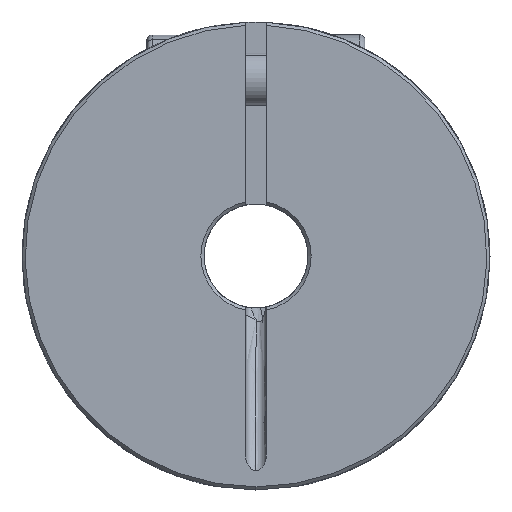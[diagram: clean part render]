
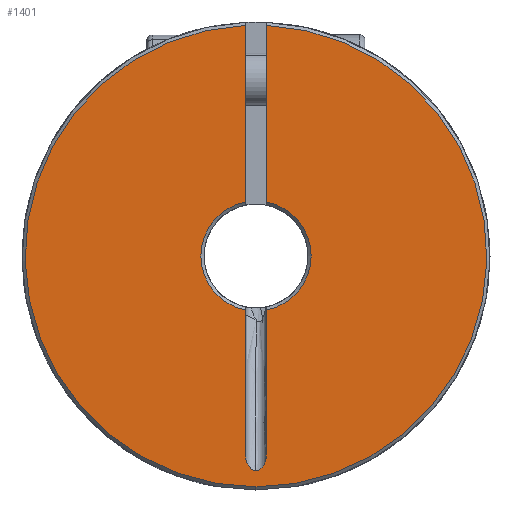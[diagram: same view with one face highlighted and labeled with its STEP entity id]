
A CAD part, left-side view. The second image highlights one B-rep face of the part: STEP entity #1401.
In plain terms, the highlighted planar face has unit normal (-1, 0, 0).
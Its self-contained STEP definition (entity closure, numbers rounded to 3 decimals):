
#21 = EDGE_CURVE ( 'NONE', #867, #5002, #2387, .T. ) ;
#142 = CARTESIAN_POINT ( 'NONE',  ( 0., -1., -19.125 ) ) ;
#321 = CARTESIAN_POINT ( 'NONE',  ( 0., 1., 5.205 ) ) ;
#369 = ORIENTED_EDGE ( 'NONE', *, *, #21, .T. ) ;
#544 = EDGE_CURVE ( 'NONE', #1414, #1650, #2566, .T. ) ;
#644 = FACE_OUTER_BOUND ( 'NONE', #1376, .T. ) ;
#645 = PLANE ( 'NONE',  #646 ) ;
#646 = AXIS2_PLACEMENT_3D ( 'NONE', #647, #648, #649 ) ;
#647 = CARTESIAN_POINT ( 'NONE',  ( 0., 5., 0. ) ) ;
#648 = DIRECTION ( 'NONE',  ( 1., 0., 0. ) ) ;
#649 = DIRECTION ( 'NONE',  ( 0., 0., -1. ) ) ;
#701 = CARTESIAN_POINT ( 'NONE',  ( 0., -1., 5.205 ) ) ;
#867 = VERTEX_POINT ( 'NONE', #2712 ) ;
#901 = ORIENTED_EDGE ( 'NONE', *, *, #544, .T. ) ;
#1043 = EDGE_CURVE ( 'NONE', #1115, #867, #2791, .T. ) ;
#1075 = ORIENTED_EDGE ( 'NONE', *, *, #2815, .F. ) ;
#1077 = ORIENTED_EDGE ( 'NONE', *, *, #1043, .T. ) ;
#1113 = ORIENTED_EDGE ( 'NONE', *, *, #1578, .T. ) ;
#1115 = VERTEX_POINT ( 'NONE', #3726 ) ;
#1136 = EDGE_CURVE ( 'NONE', #1216, #1115, #3943, .T. ) ;
#1162 = EDGE_CURVE ( 'NONE', #3938, #2367, #4140, .T. ) ;
#1174 = ORIENTED_EDGE ( 'NONE', *, *, #1136, .T. ) ;
#1191 = ORIENTED_EDGE ( 'NONE', *, *, #1162, .T. ) ;
#1216 = VERTEX_POINT ( 'NONE', #4595 ) ;
#1243 = EDGE_CURVE ( 'NONE', #4755, #1216, #4771, .T. ) ;
#1272 = ORIENTED_EDGE ( 'NONE', *, *, #1243, .T. ) ;
#1315 = ORIENTED_EDGE ( 'NONE', *, *, #1667, .F. ) ;
#1376 = EDGE_LOOP ( 'NONE', ( #1315, #1272, #1174, #1077, #369, #4507, #1191, #1113, #1075, #901 ) ) ;
#1401 = ADVANCED_FACE ( 'NONE', ( #644 ), #645, .F. ) ;
#1414 = VERTEX_POINT ( 'NONE', #701 ) ;
#1578 = EDGE_CURVE ( 'NONE', #2367, #2347, #4193, .T. ) ;
#1650 = VERTEX_POINT ( 'NONE', #4794 ) ;
#1667 = EDGE_CURVE ( 'NONE', #4755, #1650, #4903, .T. ) ;
#2347 = VERTEX_POINT ( 'NONE', #2954 ) ;
#2367 = VERTEX_POINT ( 'NONE', #3144 ) ;
#2387 = CIRCLE ( 'NONE', #2388, 5.3 ) ;
#2388 = AXIS2_PLACEMENT_3D ( 'NONE', #2389, #2390, #2391 ) ;
#2389 = CARTESIAN_POINT ( 'NONE',  ( 0., 0., 0. ) ) ;
#2390 = DIRECTION ( 'NONE',  ( 1., 0., 0. ) ) ;
#2391 = DIRECTION ( 'NONE',  ( 0., 0., -1. ) ) ;
#2566 = CIRCLE ( 'NONE', #2567, 5.3 ) ;
#2567 = AXIS2_PLACEMENT_3D ( 'NONE', #2568, #2569, #2570 ) ;
#2568 = CARTESIAN_POINT ( 'NONE',  ( 0., 0., 0. ) ) ;
#2569 = DIRECTION ( 'NONE',  ( 1., 0., 0. ) ) ;
#2570 = DIRECTION ( 'NONE',  ( 0., 0., -1. ) ) ;
#2712 = CARTESIAN_POINT ( 'NONE',  ( 0., 1., -5.205 ) ) ;
#2791 = LINE ( 'NONE', #2792, #2793 ) ;
#2792 = CARTESIAN_POINT ( 'NONE',  ( 0., 1., 0. ) ) ;
#2793 = VECTOR ( 'NONE', #2794, 1000. ) ;
#2794 = DIRECTION ( 'NONE',  ( 0., 0., 1. ) ) ;
#2815 = EDGE_CURVE ( 'NONE', #1414, #2347, #3954, .T. ) ;
#2954 = CARTESIAN_POINT ( 'NONE',  ( 0., -1., 22.177 ) ) ;
#3144 = CARTESIAN_POINT ( 'NONE',  ( 0., 0., -22.2 ) ) ;
#3726 = CARTESIAN_POINT ( 'NONE',  ( 0., 1., -19.125 ) ) ;
#3938 = VERTEX_POINT ( 'NONE', #4793 ) ;
#3943 = B_SPLINE_CURVE_WITH_KNOTS ( 'NONE', 3,
 ( #3944, #3945, #3946, #3947, #3948, #3949, #3950, #3951, #3952, #3953 ),
 .UNSPECIFIED., .F., .F.,
 ( 4, 2, 2, 2, 4 ),
 ( 0., 0., 0.001, 0.001, 0.002 ),
 .UNSPECIFIED. ) ;
#3944 = CARTESIAN_POINT ( 'NONE',  ( 0., 0., -20.63 ) ) ;
#3945 = CARTESIAN_POINT ( 'NONE',  ( 0., 0.168, -20.63 ) ) ;
#3946 = CARTESIAN_POINT ( 'NONE',  ( 0., 0.328, -20.565 ) ) ;
#3947 = CARTESIAN_POINT ( 'NONE',  ( 0., 0.593, -20.361 ) ) ;
#3948 = CARTESIAN_POINT ( 'NONE',  ( 0., 0.696, -20.227 ) ) ;
#3949 = CARTESIAN_POINT ( 'NONE',  ( 0., 0.854, -19.936 ) ) ;
#3950 = CARTESIAN_POINT ( 'NONE',  ( 0., 0.909, -19.779 ) ) ;
#3951 = CARTESIAN_POINT ( 'NONE',  ( 0., 0.983, -19.456 ) ) ;
#3952 = CARTESIAN_POINT ( 'NONE',  ( 0., 1., -19.291 ) ) ;
#3953 = CARTESIAN_POINT ( 'NONE',  ( 0., 1., -19.125 ) ) ;
#3954 = LINE ( 'NONE', #3955, #3956 ) ;
#3955 = CARTESIAN_POINT ( 'NONE',  ( 0., -1., 0. ) ) ;
#3956 = VECTOR ( 'NONE', #3957, 1000. ) ;
#3957 = DIRECTION ( 'NONE',  ( 0., 0., 1. ) ) ;
#4140 = CIRCLE ( 'NONE', #4141, 22.2 ) ;
#4141 = AXIS2_PLACEMENT_3D ( 'NONE', #4142, #4143, #4144 ) ;
#4142 = CARTESIAN_POINT ( 'NONE',  ( 0., 0., 0. ) ) ;
#4143 = DIRECTION ( 'NONE',  ( -1., 0., 0. ) ) ;
#4144 = DIRECTION ( 'NONE',  ( 0., 0., -1. ) ) ;
#4152 = EDGE_CURVE ( 'NONE', #5002, #3938, #4930, .T. ) ;
#4193 = CIRCLE ( 'NONE', #4194, 22.2 ) ;
#4194 = AXIS2_PLACEMENT_3D ( 'NONE', #4195, #4196, #4197 ) ;
#4195 = CARTESIAN_POINT ( 'NONE',  ( 0., 0., 0. ) ) ;
#4196 = DIRECTION ( 'NONE',  ( -1., 0., 0. ) ) ;
#4197 = DIRECTION ( 'NONE',  ( 0., 0., -1. ) ) ;
#4507 = ORIENTED_EDGE ( 'NONE', *, *, #4152, .T. ) ;
#4595 = CARTESIAN_POINT ( 'NONE',  ( 0., 0., -20.63 ) ) ;
#4755 = VERTEX_POINT ( 'NONE', #142 ) ;
#4771 = B_SPLINE_CURVE_WITH_KNOTS ( 'NONE', 3,
 ( #4772, #4773, #4774, #4775, #4776, #4777, #4778, #4779, #4780, #4781 ),
 .UNSPECIFIED., .F., .F.,
 ( 4, 2, 2, 2, 4 ),
 ( 0., 0., 0.001, 0.001, 0.002 ),
 .UNSPECIFIED. ) ;
#4772 = CARTESIAN_POINT ( 'NONE',  ( 0., -1., -19.125 ) ) ;
#4773 = CARTESIAN_POINT ( 'NONE',  ( 0., -1., -19.291 ) ) ;
#4774 = CARTESIAN_POINT ( 'NONE',  ( 0., -0.983, -19.455 ) ) ;
#4775 = CARTESIAN_POINT ( 'NONE',  ( 0., -0.91, -19.775 ) ) ;
#4776 = CARTESIAN_POINT ( 'NONE',  ( 0., -0.854, -19.935 ) ) ;
#4777 = CARTESIAN_POINT ( 'NONE',  ( 0., -0.697, -20.225 ) ) ;
#4778 = CARTESIAN_POINT ( 'NONE',  ( 0., -0.593, -20.36 ) ) ;
#4779 = CARTESIAN_POINT ( 'NONE',  ( 0., -0.33, -20.564 ) ) ;
#4780 = CARTESIAN_POINT ( 'NONE',  ( 0., -0.168, -20.63 ) ) ;
#4781 = CARTESIAN_POINT ( 'NONE',  ( 0., 0., -20.63 ) ) ;
#4793 = CARTESIAN_POINT ( 'NONE',  ( 0., 1., 22.177 ) ) ;
#4794 = CARTESIAN_POINT ( 'NONE',  ( 0., -1., -5.205 ) ) ;
#4903 = LINE ( 'NONE', #4904, #4905 ) ;
#4904 = CARTESIAN_POINT ( 'NONE',  ( 0., -1., 0. ) ) ;
#4905 = VECTOR ( 'NONE', #4906, 1000. ) ;
#4906 = DIRECTION ( 'NONE',  ( 0., 0., 1. ) ) ;
#4930 = LINE ( 'NONE', #4931, #4933 ) ;
#4931 = CARTESIAN_POINT ( 'NONE',  ( 0., 1., 0. ) ) ;
#4933 = VECTOR ( 'NONE', #4934, 1000. ) ;
#4934 = DIRECTION ( 'NONE',  ( 0., 0., 1. ) ) ;
#5002 = VERTEX_POINT ( 'NONE', #321 ) ;
